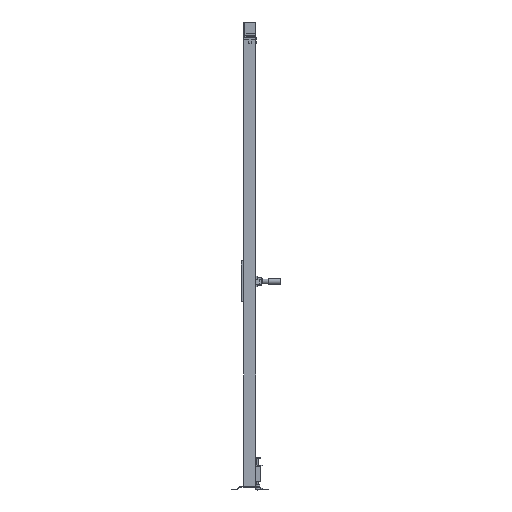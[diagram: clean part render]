
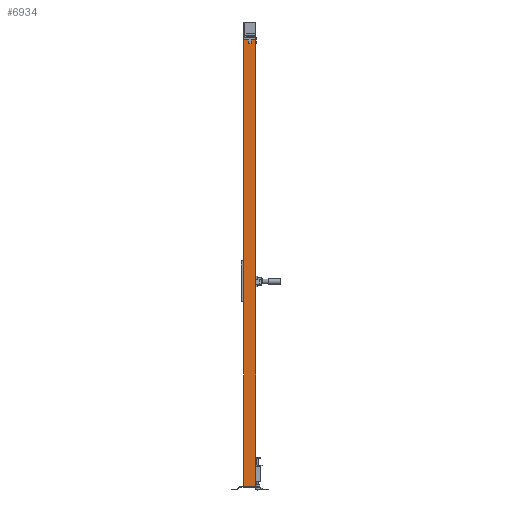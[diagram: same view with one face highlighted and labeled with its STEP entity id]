
A CAD part, left-side view. The second image highlights one B-rep face of the part: STEP entity #6934.
In plain terms, the highlighted planar face has unit normal (-1, 0, 0).
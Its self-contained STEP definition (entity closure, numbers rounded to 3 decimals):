
#833=FACE_OUTER_BOUND('',#1185,.T.);
#1185=EDGE_LOOP('',(#5235,#5236,#5237,#5238));
#1699=LINE('',#10109,#2568);
#1703=LINE('',#10118,#2572);
#1705=LINE('',#10121,#2574);
#1707=LINE('',#10124,#2576);
#2568=VECTOR('',#8149,1.);
#2572=VECTOR('',#8155,1.);
#2574=VECTOR('',#8159,1.);
#2576=VECTOR('',#8163,1.);
#3371=VERTEX_POINT('',#10106);
#3372=VERTEX_POINT('',#10108);
#3375=VERTEX_POINT('',#10115);
#3376=VERTEX_POINT('',#10117);
#4092=EDGE_CURVE('',#3371,#3372,#1699,.T.);
#4096=EDGE_CURVE('',#3375,#3376,#1703,.T.);
#4098=EDGE_CURVE('',#3372,#3375,#1705,.T.);
#4100=EDGE_CURVE('',#3371,#3376,#1707,.T.);
#5235=ORIENTED_EDGE('',*,*,#4100,.T.);
#5236=ORIENTED_EDGE('',*,*,#4096,.F.);
#5237=ORIENTED_EDGE('',*,*,#4098,.F.);
#5238=ORIENTED_EDGE('',*,*,#4092,.F.);
#6629=PLANE('',#7338);
#6934=ADVANCED_FACE('',(#833),#6629,.F.);
#7338=AXIS2_PLACEMENT_3D('',#10123,#8161,#8162);
#8149=DIRECTION('',(0.,-1.,0.));
#8155=DIRECTION('',(0.,1.,0.));
#8159=DIRECTION('',(0.,0.,-1.));
#8161=DIRECTION('center_axis',(1.,0.,0.));
#8162=DIRECTION('ref_axis',(0.,0.,-1.));
#8163=DIRECTION('',(0.,0.,-1.));
#10106=CARTESIAN_POINT('',(-30.,30.,2320.));
#10108=CARTESIAN_POINT('',(-30.,-30.,2320.));
#10109=CARTESIAN_POINT('',(-30.,0.,2320.));
#10115=CARTESIAN_POINT('',(-30.,-30.,20.));
#10117=CARTESIAN_POINT('',(-30.,30.,20.));
#10118=CARTESIAN_POINT('',(-30.,0.,20.));
#10121=CARTESIAN_POINT('',(-30.,-30.,1170.));
#10123=CARTESIAN_POINT('Origin',(-30.,0.,
1170.));
#10124=CARTESIAN_POINT('',(-30.,30.,1170.));
